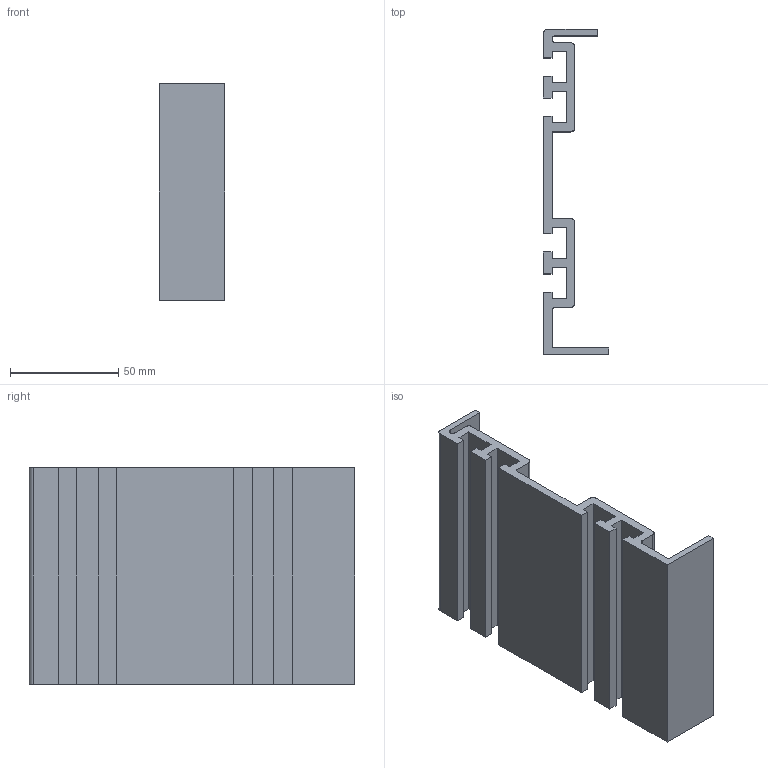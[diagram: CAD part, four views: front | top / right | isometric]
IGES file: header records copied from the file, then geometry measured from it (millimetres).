
Start section: SolidWorks IGES file using analytic representation for surfaces
Global section: file name: C:\Documents and Settings\URETIM3\Desktop\yeni katalog tolgay düzenli\C kataloðu\25x150 eloksallý konveyör yan þase alüminyum profil\765 025 151.IGS; native system: SolidWorks 2006 by SolidWorks Corporation; preprocessor: SolidWorks 2006 by SolidWorks Corporation; author: URETIM3; date: 060912.100102; units: millimetre
Bounding box: 30.11 x 150 x 100 mm (x, y, z)
Surface area: 59108 mm2 (no closed solid volume)
Topology: 0 solids, 0 shells, 61 faces, 484 edges, 484 vertices
Faces by surface type: bspline 50, revolution 11
